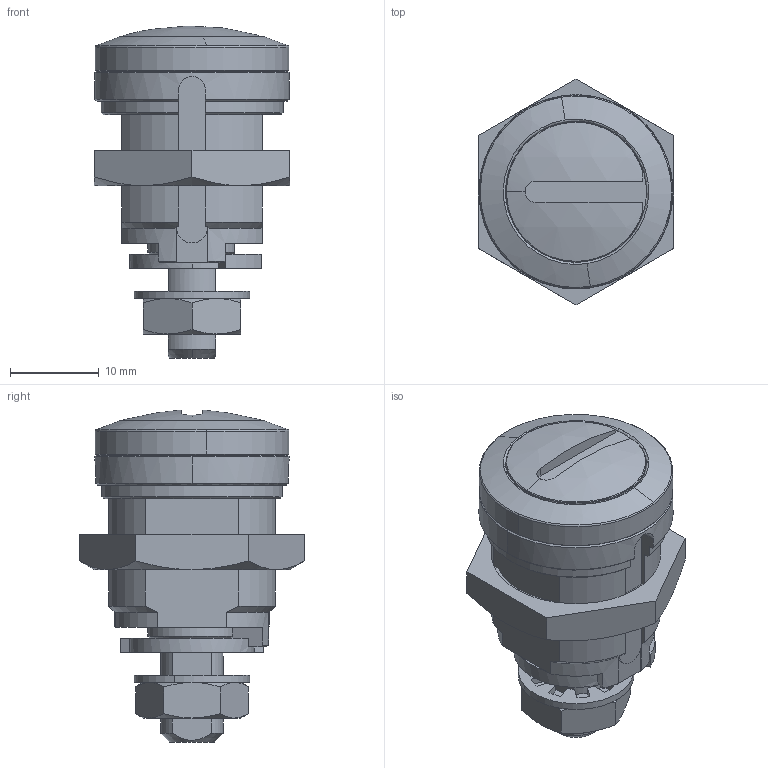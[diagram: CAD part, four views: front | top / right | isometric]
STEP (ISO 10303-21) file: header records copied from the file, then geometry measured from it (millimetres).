
FILE_DESCRIPTION (( 'STEP AP203' ), '1' );
FILE_NAME ('F830-DD-L180組立図-3D提出用.STEP', '2020-04-10T01:15:05', ( '' ), ( '' ), 'SwSTEP 2.0', 'SolidWorks 2013', '' );
FILE_SCHEMA (( 'CONFIG_CONTROL_DESIGN' ));
Length unit declared in the file: millimetre
Products named in the file (5): F830-DD-L180組立図-3D提出用; M19×t4ﾅｯﾄ; F830-DD-L180組立図-本体; 歯付き座金AW-7; M7×t4ﾅｯﾄ
Assembly tree (4 placements, depth 2):
  F830-DD-L180組立図-3D提出用
    F830-DD-L180組立図-本体
    歯付き座金AW-7
    M7×t4ﾅｯﾄ
    M19×t4ﾅｯﾄ
Bounding box: 22 x 25.4 x 37.37 mm (x, y, z)
Volume: 8526.6 mm3; surface area: 4217.1 mm2
Topology: 4 solids, 4 shells, 211 faces, 549 edges, 351 vertices
Faces by surface type: plane 83, cylinder 72, cone 45, torus 7, sphere 4
Entity records: 7308 total; most frequent: CARTESIAN_POINT 1566, DIRECTION 1121, ORIENTED_EDGE 1098, EDGE_CURVE 549, AXIS2_PLACEMENT_3D 428, VERTEX_POINT 351, LINE 265, VECTOR 265
